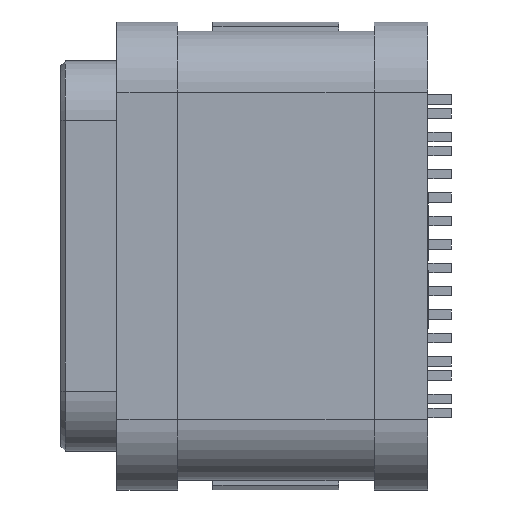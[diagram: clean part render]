
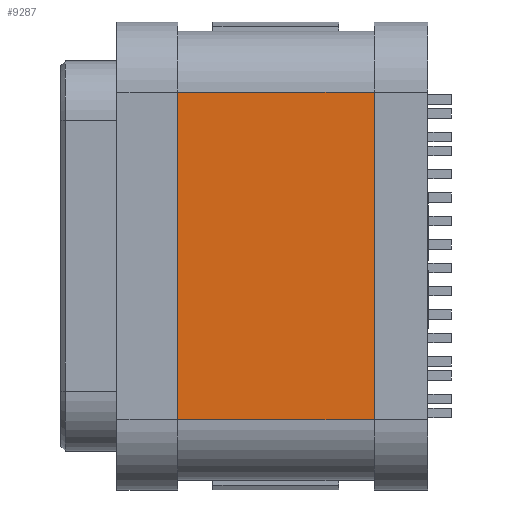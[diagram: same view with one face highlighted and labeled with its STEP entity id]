
A CAD part, top view. The second image highlights one B-rep face of the part: STEP entity #9287.
In plain terms, the highlighted planar face has unit normal (0, 0, 1).
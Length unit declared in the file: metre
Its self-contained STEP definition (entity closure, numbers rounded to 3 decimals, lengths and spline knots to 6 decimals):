
#2328=ORIENTED_EDGE('',*,*,#4177,.T.);
#2329=ORIENTED_EDGE('',*,*,#4178,.F.);
#2330=ORIENTED_EDGE('',*,*,#4179,.F.);
#2331=ORIENTED_EDGE('',*,*,#4175,.T.);
#4175=EDGE_CURVE('',#5121,#5120,#6011,.T.);
#4177=EDGE_CURVE('',#5120,#5122,#6012,.T.);
#4178=EDGE_CURVE('',#5123,#5122,#6013,.T.);
#4179=EDGE_CURVE('',#5121,#5123,#6014,.T.);
#5120=VERTEX_POINT('',#17845);
#5121=VERTEX_POINT('',#17847);
#5122=VERTEX_POINT('',#17851);
#5123=VERTEX_POINT('',#17853);
#6011=LINE('',#17846,#6952);
#6012=LINE('',#17850,#6953);
#6013=LINE('',#17852,#6954);
#6014=LINE('',#17854,#6955);
#6952=VECTOR('',#14828,1.);
#6953=VECTOR('',#14833,1.);
#6954=VECTOR('',#14834,1.);
#6955=VECTOR('',#14835,1.);
#7509=EDGE_LOOP('',(#2328,#2329,#2330,#2331));
#8004=FACE_BOUND('',#7509,.T.);
#8380=PLANE('',#12750);
#9287=ADVANCED_FACE('',(#8004),#8380,.F.);
#12750=AXIS2_PLACEMENT_3D('',#17849,#14831,#14832);
#14828=DIRECTION('',(-1.,0.,0.));
#14831=DIRECTION('',(0.,0.,-1.));
#14832=DIRECTION('',(0.,1.,0.));
#14833=DIRECTION('',(0.,-1.,0.));
#14834=DIRECTION('',(-1.,0.,0.));
#14835=DIRECTION('',(0.,-1.,0.));
#17845=CARTESIAN_POINT('',(-0.145411,-0.031434,0.01396));
#17846=CARTESIAN_POINT('',(-0.141211,-0.031434,0.01396));
#17847=CARTESIAN_POINT('',(-0.141211,-0.031434,0.01396));
#17849=CARTESIAN_POINT('',(-0.141211,-0.038434,0.01396));
#17850=CARTESIAN_POINT('',(-0.145411,-0.038434,0.01396));
#17851=CARTESIAN_POINT('',(-0.145411,-0.038434,0.01396));
#17852=CARTESIAN_POINT('',(-0.141211,-0.038434,0.01396));
#17853=CARTESIAN_POINT('',(-0.141211,-0.038434,0.01396));
#17854=CARTESIAN_POINT('',(-0.141211,-0.038434,0.01396));
